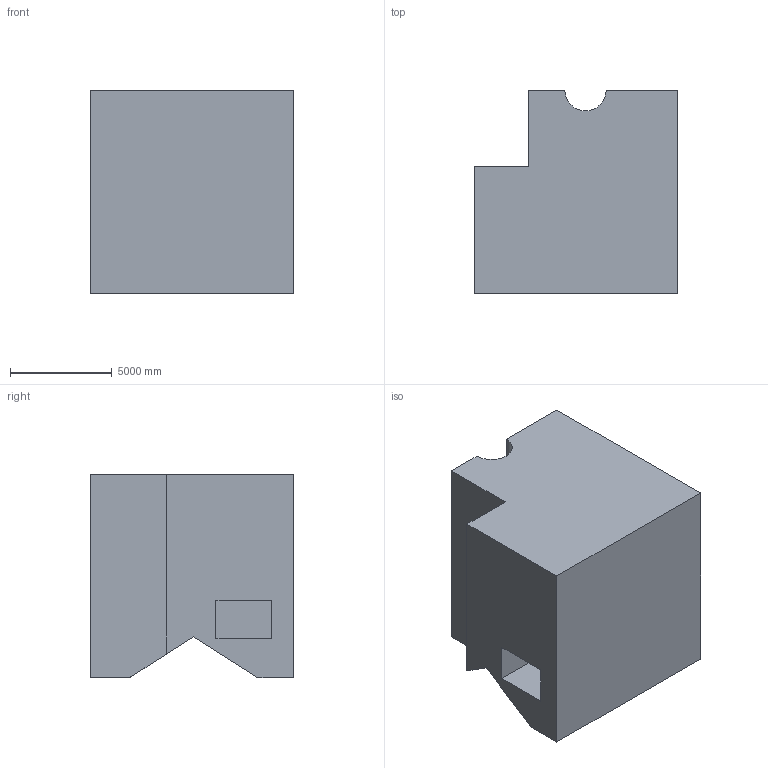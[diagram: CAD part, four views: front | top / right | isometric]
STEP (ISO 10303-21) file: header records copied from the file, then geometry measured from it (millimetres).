
FILE_DESCRIPTION (( 'STEP AP203' ), '1' );
FILE_NAME ('1372.STEP', '2022-08-18T14:06:08', ( 'user' ), ( '' ), 'SwSTEP 2.0', 'SolidWorks 2021', '' );
FILE_SCHEMA (( 'CONFIG_CONTROL_DESIGN' ));
Length unit declared in the file: centimetre
Products named in the file (1): 1372
Bounding box: 10000 x 10000 x 10000 mm (x, y, z)
Volume: 779082291873.4 mm3; surface area: 662657935.9 mm2
Topology: 1 solids, 1 shells, 18 faces, 45 edges, 30 vertices
Faces by surface type: plane 17, cylinder 1
Entity records: 608 total; most frequent: CARTESIAN_POINT 94, ORIENTED_EDGE 90, DIRECTION 85, EDGE_CURVE 45, VECTOR 43, LINE 43, VERTEX_POINT 30, AXIS2_PLACEMENT_3D 21
